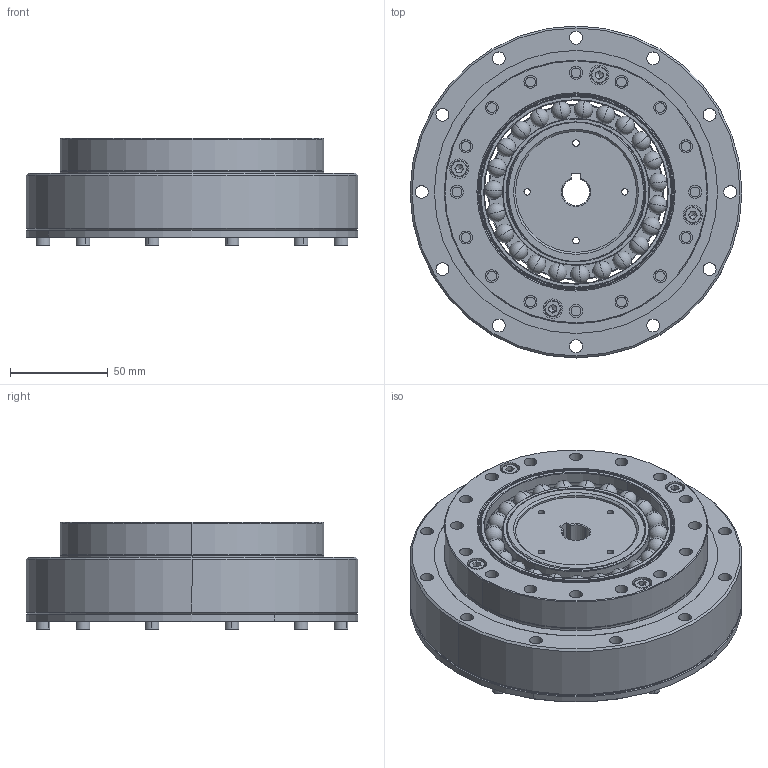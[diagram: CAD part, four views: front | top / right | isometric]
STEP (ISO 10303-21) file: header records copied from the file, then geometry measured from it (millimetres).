
FILE_DESCRIPTION (( 'STEP AP203' ), '1' );
FILE_NAME ('BHS-40-XXX-U-¢ñ.STEP', '2019-01-15T05:50:52', ( 'User' ), ( 'China' ), 'SwSTEP 2.0', 'SolidWorks 2015', '' );
FILE_SCHEMA (( 'CONFIG_CONTROL_DESIGN' ));
Length unit declared in the file: millimetre
Products named in the file (1): BHS-40-XXX-U-ｉ
Bounding box: 170 x 170 x 55 mm (x, y, z)
Surface area: 142396.2 mm2 (no closed solid volume)
Topology: 0 solids, 42 shells, 390 faces, 1142 edges, 750 vertices
Faces by surface type: cylinder 153, plane 99, cone 76, sphere 46, torus 12, bspline 4
Entity records: 14375 total; most frequent: CARTESIAN_POINT 4292, DIRECTION 2312, ORIENTED_EDGE 1754, EDGE_CURVE 1015, AXIS2_PLACEMENT_3D 929, VERTEX_POINT 681, CIRCLE 542, EDGE_LOOP 514
